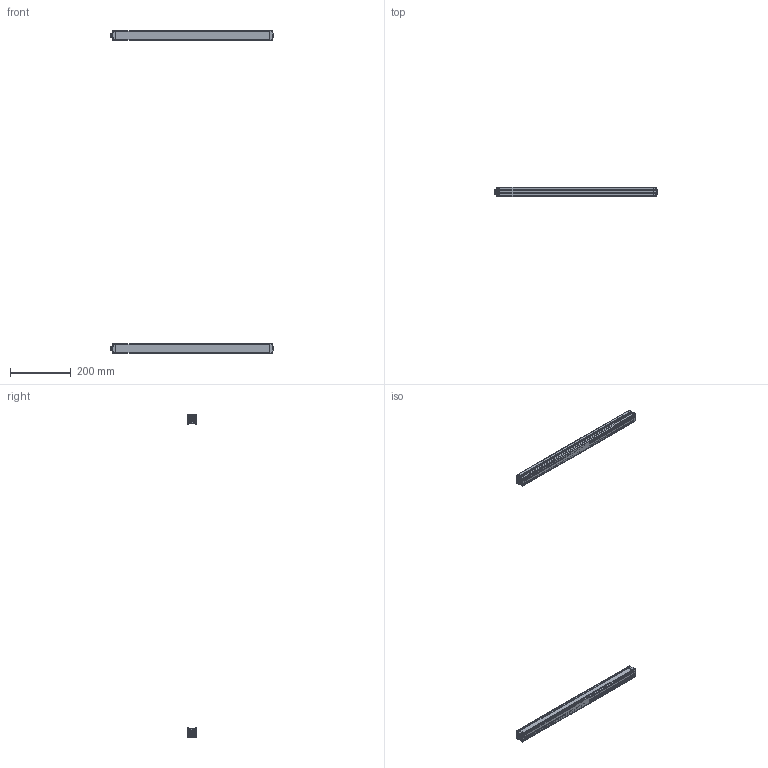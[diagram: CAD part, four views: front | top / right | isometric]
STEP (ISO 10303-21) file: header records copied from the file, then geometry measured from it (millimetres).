
FILE_DESCRIPTION(/* description */ (''),/* implementation_level */ '2;1');
FILE_NAME(/* name */ 'THS10-48.stp',/* time_stamp */ '2023-08-09T16:45:02+08:00',/* author */ (''),/* organization */ (''),/* preprocessor_version */ 'ST-DEVELOPER v16',/* originating_system */ 'SIEMENS PLM Software NX 11.0',/* authorisation */ '');
FILE_SCHEMA (('AP203_CONFIGURATION_CONTROLLED_3D_DESIGN_OF_MECHANICAL_PARTS_AND_ASSEMBLIES_MIM_LF { 1 0 10303 403 2 1 2}'));
Length unit declared in the file: millimetre
Products named in the file (10): 16; 14; 12; 13; 102; 101; 11; ASM0002_ASM; THS10-100; 0
Assembly tree (10 placements, depth 4):
  0
    THS10-100  x2
      11
      101
      102
      13
      12
      ASM0002_ASM
        14
        16
Bounding box: 537 x 30.3 x 1058.6 mm (x, y, z)
Volume: 322624.3 mm3; surface area: 363179.6 mm2
Topology: 10 solids, 14 shells, 1080 faces, 3010 edges, 1986 vertices
Faces by surface type: plane 764, cylinder 288, cone 28
Entity records: 18604 total; most frequent: CARTESIAN_POINT 3163, ORIENTED_EDGE 3006, DIRECTION 2923, EDGE_CURVE 1505, LINE 1173, VECTOR 1173, VERTEX_POINT 993, AXIS2_PLACEMENT_3D 875
